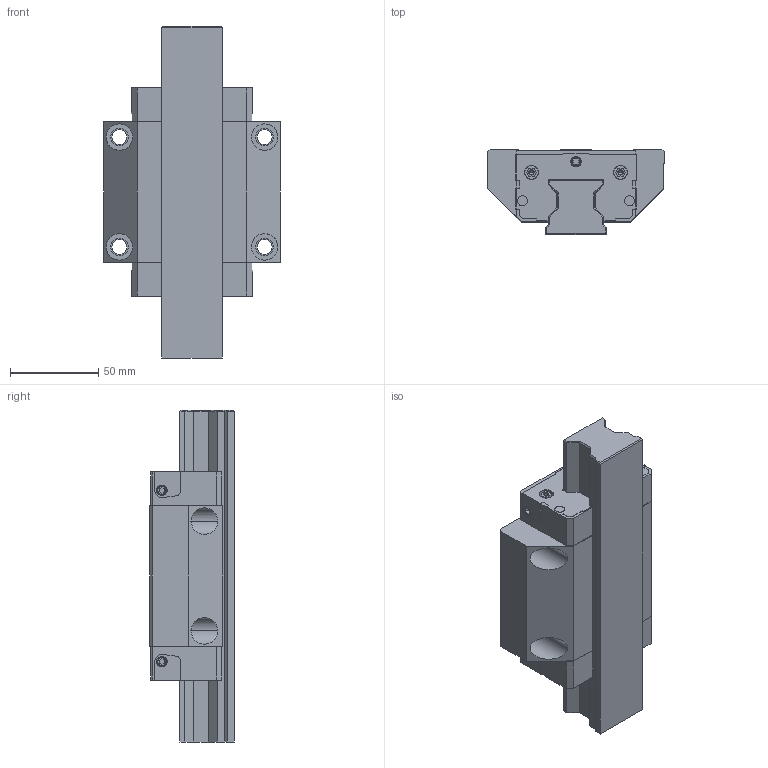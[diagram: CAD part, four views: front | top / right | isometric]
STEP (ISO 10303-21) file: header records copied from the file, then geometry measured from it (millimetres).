
FILE_DESCRIPTION((''),'2;1');
FILE_NAME('R1851_SIZE35_ASM','2021-07-06T04:24:41',('ac91sw'),(''),'CREO PARAMETRIC BY PTC INC, 2020044','CREO PARAMETRIC BY PTC INC, 2020044','');
FILE_SCHEMA(('AUTOMOTIVE_DESIGN { 1 0 10303 214 1 1 1 1 }'));
Length unit declared in the file: millimetre
Products named in the file (6): R1851_SIZE35_SKEL; R185132501; R185130702_Z; R913034226_Z; R1851_SIZE35_PSF; R1851_SIZE35_ASM
Assembly tree (11 placements, depth 2):
  R1851_SIZE35_ASM
    R1851_SIZE35_SKEL
    R185132501
    R185130702_Z  x2
    R913034226_Z  x6
    R1851_SIZE35_PSF
Bounding box: 100 x 47.98 x 187.6 mm (x, y, z)
Volume: 430301 mm3; surface area: 96909.1 mm2
Topology: 10 solids, 26 shells, 526 faces, 1342 edges, 862 vertices
Faces by surface type: plane 332, cylinder 138, cone 56
Entity records: 15256 total; most frequent: CARTESIAN_POINT 1919, DIRECTION 1572, ORIENTED_EDGE 1492, EDGE_CURVE 764, PROPERTY_DEFINITION 699, REPRESENTATION 692, PROPERTY_DEFINITION_REPRESENTATION 692, DESCRIPTIVE_REPRESENTATION_ITEM 643
